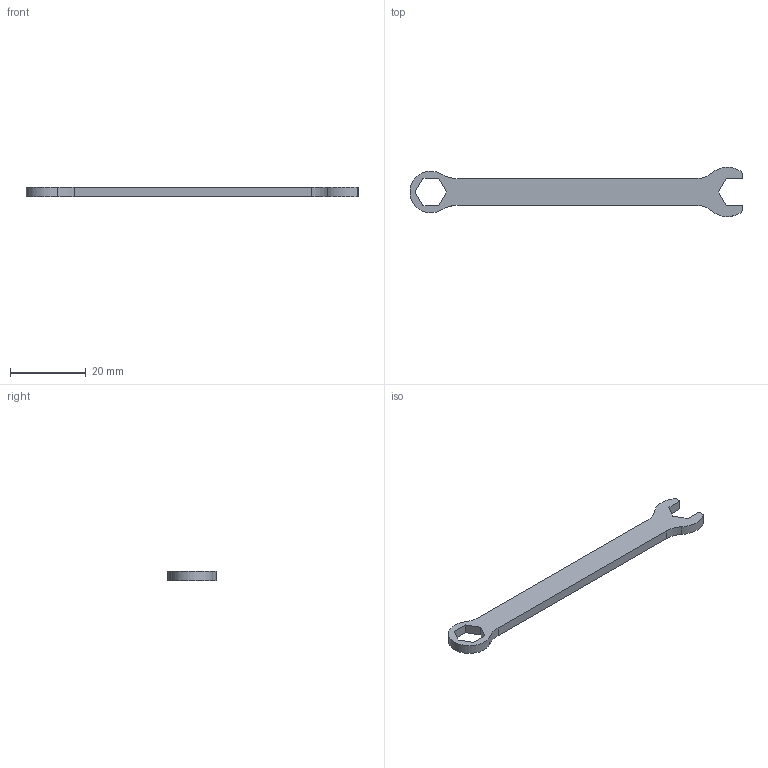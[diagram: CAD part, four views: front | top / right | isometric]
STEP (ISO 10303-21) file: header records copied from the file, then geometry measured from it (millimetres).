
FILE_DESCRIPTION (( 'STEP AP203' ), '1' );
FILE_NAME ('4202-0080-0007.STEP', '2018-02-13T22:01:43', ( '' ), ( '' ), 'SwSTEP 2.0', 'SolidWorks 2016', '' );
FILE_SCHEMA (( 'CONFIG_CONTROL_DESIGN' ));
Length unit declared in the file: millimetre
Products named in the file (1): 4202-0080-0007
Bounding box: 87.54 x 12.98 x 2.5 mm (x, y, z)
Volume: 1497.6 mm3; surface area: 1769.5 mm2
Topology: 1 solids, 1 shells, 27 faces, 75 edges, 50 vertices
Faces by surface type: plane 16, cylinder 11
Entity records: 952 total; most frequent: CARTESIAN_POINT 153, DIRECTION 153, ORIENTED_EDGE 150, EDGE_CURVE 75, VECTOR 53, LINE 53, VERTEX_POINT 50, AXIS2_PLACEMENT_3D 50
